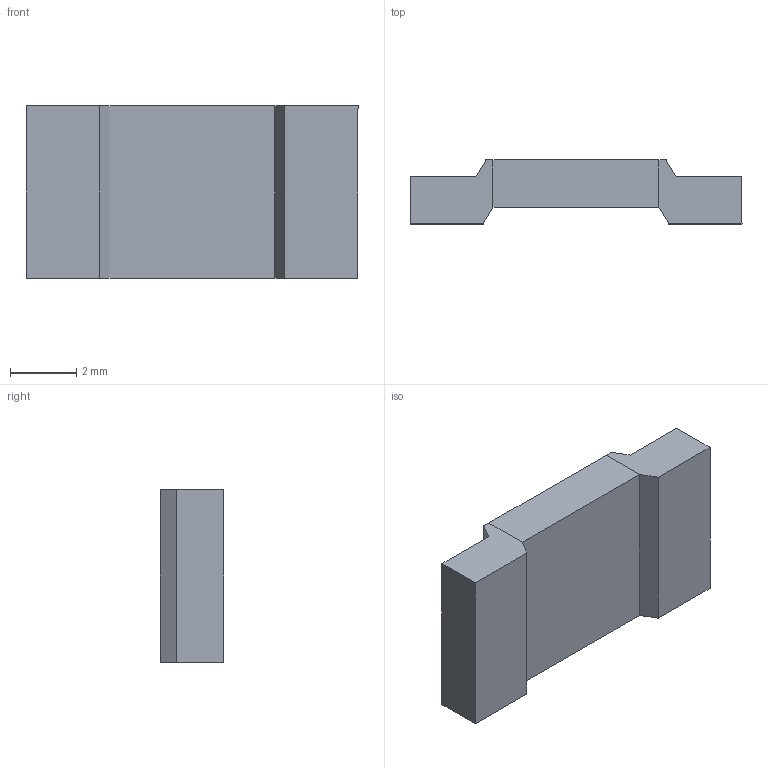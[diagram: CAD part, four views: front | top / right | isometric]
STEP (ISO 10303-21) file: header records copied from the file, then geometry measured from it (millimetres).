
FILE_DESCRIPTION (( 'STEP AP214' ), '1' );
FILE_NAME ('CHSA3920R0003F.STEP', '2025-08-18T10:46:30', ( '' ), ( '' ), 'SwSTEP 2.0', 'SolidWorks 2020', '' );
FILE_SCHEMA (( 'AUTOMOTIVE_DESIGN' ));
Length unit declared in the file: millimetre
Products named in the file (1): CHSA3920R0003F
Bounding box: 10 x 1.92 x 5.2 mm (x, y, z)
Volume: 75 mm3; surface area: 183 mm2
Topology: 3 solids, 3 shells, 24 faces, 54 edges, 36 vertices
Faces by surface type: plane 24
Entity records: 776 total; most frequent: CARTESIAN_POINT 115, ORIENTED_EDGE 108, DIRECTION 104, VECTOR 54, LINE 54, EDGE_CURVE 54, VERTEX_POINT 36, AXIS2_PLACEMENT_3D 25
